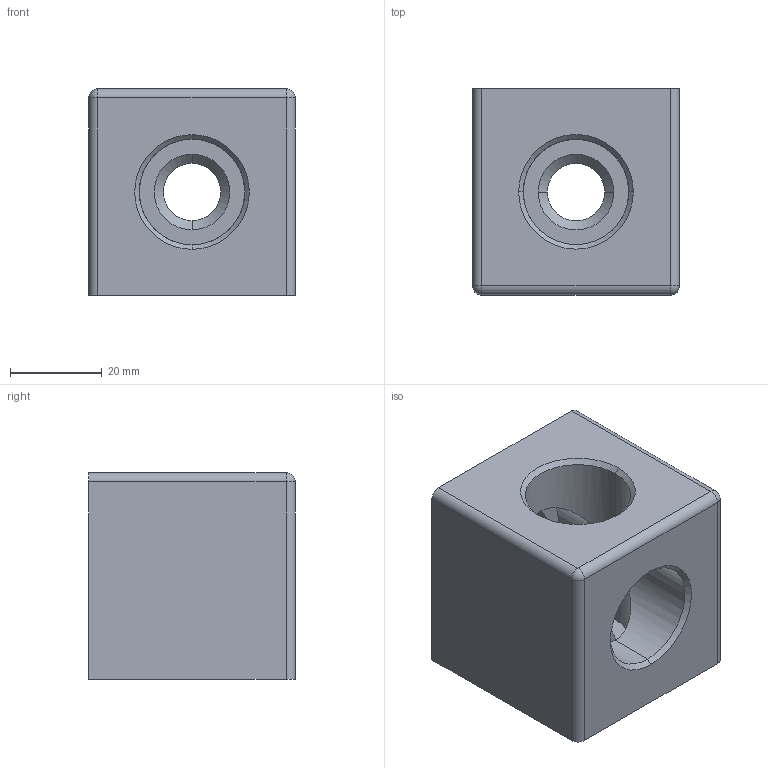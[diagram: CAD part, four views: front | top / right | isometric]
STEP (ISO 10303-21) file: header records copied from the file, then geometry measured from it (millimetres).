
FILE_DESCRIPTION (( 'STEP AP214' ), '1' );
FILE_NAME ('2072.STEP', '2019-12-16T09:34:19', ( '' ), ( '' ), 'SwSTEP 2.0', 'SolidWorks 2014', '' );
FILE_SCHEMA (( 'AUTOMOTIVE_DESIGN' ));
Length unit declared in the file: millimetre
Products named in the file (2): 2072
Bounding box: 45 x 45 x 45 mm (x, y, z)
Volume: 64332.4 mm3; surface area: 15355 mm2
Topology: 1 solids, 1 shells, 35 faces, 81 edges, 46 vertices
Faces by surface type: cylinder 17, cone 8, plane 8, sphere 2
Entity records: 1028 total; most frequent: CARTESIAN_POINT 186, DIRECTION 179, ORIENTED_EDGE 158, EDGE_CURVE 79, AXIS2_PLACEMENT_3D 71, VERTEX_POINT 46, EDGE_LOOP 41, LINE 37
